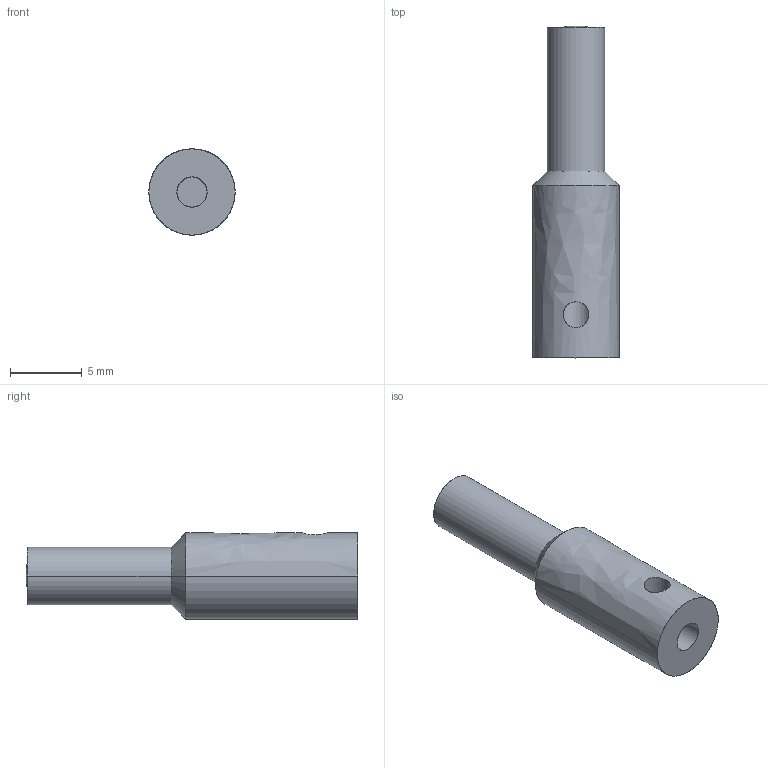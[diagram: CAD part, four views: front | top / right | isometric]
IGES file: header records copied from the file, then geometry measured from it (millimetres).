
Start section: SolidWorks IGES file using analytic representation for surfaces
Bounding box: 6 x 23.1 x 6 mm (x, y, z)
Surface area: 453 mm2 (no closed solid volume)
Topology: 0 solids, 0 shells, 15 faces, 304 edges, 303 vertices
Faces by surface type: revolution 12, bspline 3
